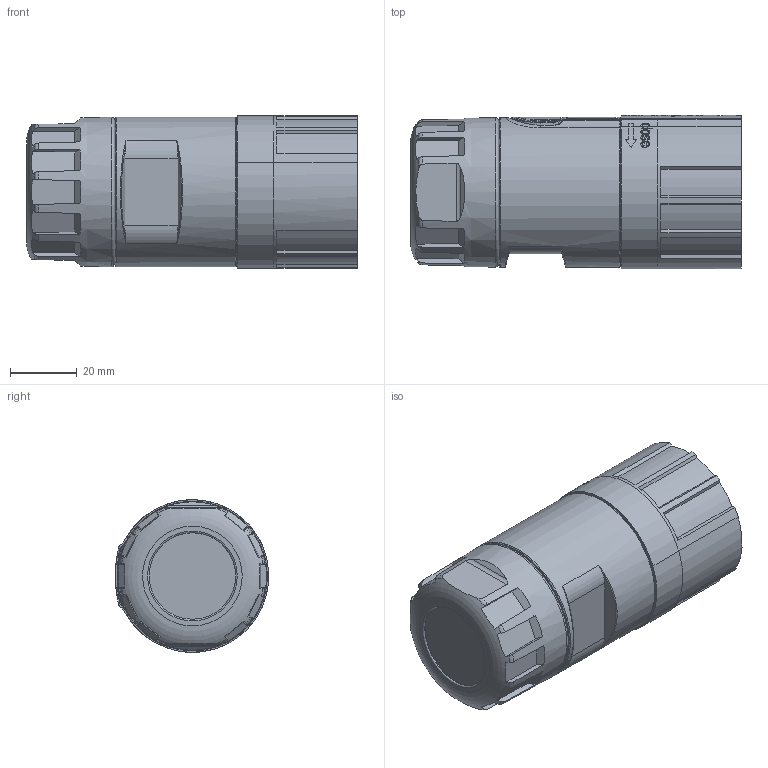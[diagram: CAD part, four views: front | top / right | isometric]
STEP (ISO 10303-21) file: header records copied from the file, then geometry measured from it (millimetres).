
FILE_DESCRIPTION(/* description */ (''),/* implementation_level */ '2;1');
FILE_NAME(/* name */ 'C:\Users\TE295059\Desktop\3D-Daten Rockwell\CST_0120_8-polig, Buchse.stp',/* time_stamp */ '2018-01-10T11:01:56+01:00',/* author */ ('TE295059'),/* organization */ (''),/* preprocessor_version */ 'ST-DEVELOPER v15.2',/* originating_system */ 'Autodesk Inventor 2014',/* authorisation */ '');
FILE_SCHEMA (('CONFIG_CONTROL_DESIGN'));
Length unit declared in the file: millimetre
Products named in the file (1): 146171
Bounding box: 99.5 x 46.08 x 45.91 mm (x, y, z)
Volume: 139337 mm3; surface area: 26675.5 mm2
Topology: 1 solids, 1 shells, 515 faces, 1846 edges, 1428 vertices
Faces by surface type: plane 244, cylinder 152, bspline 76, cone 22, torus 21
Full cylindrical faces by diameter (mm): 2.2 x4, 3.5 x1, 3.8 x4, 4 x1, 5 x8, 7.2 x8, 26 x1, 31.95 x1, 34.15 x2, 35.7 x1, 35.85 x1, 40.6 x1, 42.4 x1, 45 x1
Entity records: 25284 total; most frequent: CARTESIAN_POINT 9201, ORIENTED_EDGE 3566, DIRECTION 2889, EDGE_CURVE 1783, VERTEX_POINT 1414, AXIS2_PLACEMENT_3D 1136, EDGE_LOOP 659, LINE 617
